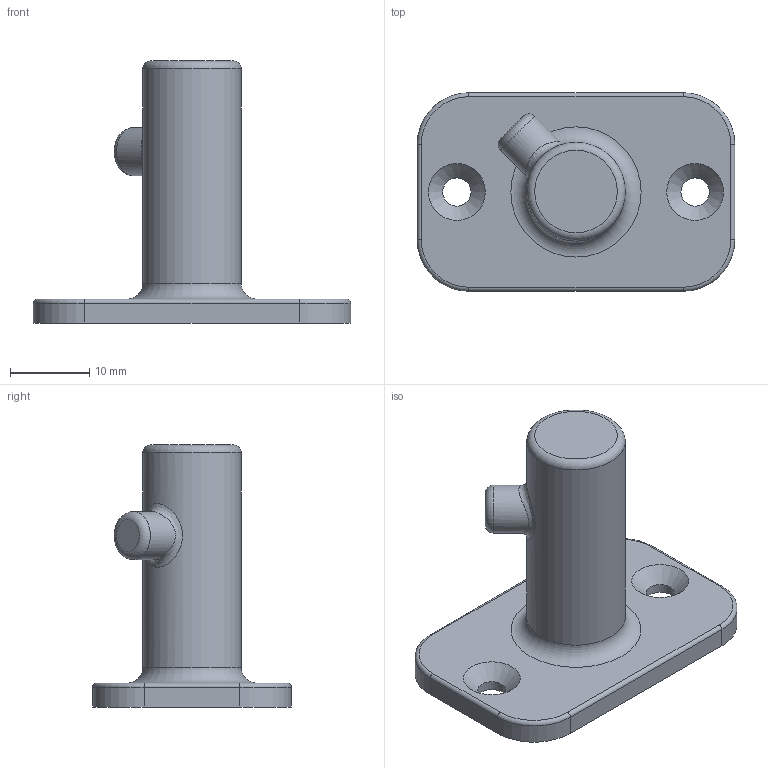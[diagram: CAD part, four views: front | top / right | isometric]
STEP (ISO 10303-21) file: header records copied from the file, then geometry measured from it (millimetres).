
FILE_DESCRIPTION(/* description */ (''),/* implementation_level */ '2;1');
FILE_NAME(/* name */ 'H:/Printer Stuff/Parametric/KitchenaidMixerHangers.stp',/* time_stamp */ '2021-12-31T20:32:48-06:00',/* author */ (''),/* organization */ (''),/* preprocessor_version */ 'ST-DEVELOPER v15.2',/* originating_system */ 'Autodesk Translator Framework v2.0.0.5431',/* authorisation */ '');
FILE_SCHEMA (('AUTOMOTIVE_DESIGN { 1 0 10303 214 3 1 1 }'));
Length unit declared in the file: centimetre
Products named in the file (1): kitchen mixer
Bounding box: 40 x 25 x 33 mm (x, y, z)
Volume: 6582 mm3; surface area: 3483.4 mm2
Topology: 1 solids, 1 shells, 30 faces, 65 edges, 39 vertices
Faces by surface type: cylinder 12, plane 8, torus 7, cone 2, bspline 1
Full cylindrical faces by diameter (mm): 3.556 x2, 6.05 x1, 12.4 x1
Entity records: 900 total; most frequent: CARTESIAN_POINT 240, DIRECTION 146, ORIENTED_EDGE 110, AXIS2_PLACEMENT_3D 63, EDGE_CURVE 55, EDGE_LOOP 45, VERTEX_POINT 38, CIRCLE 33
